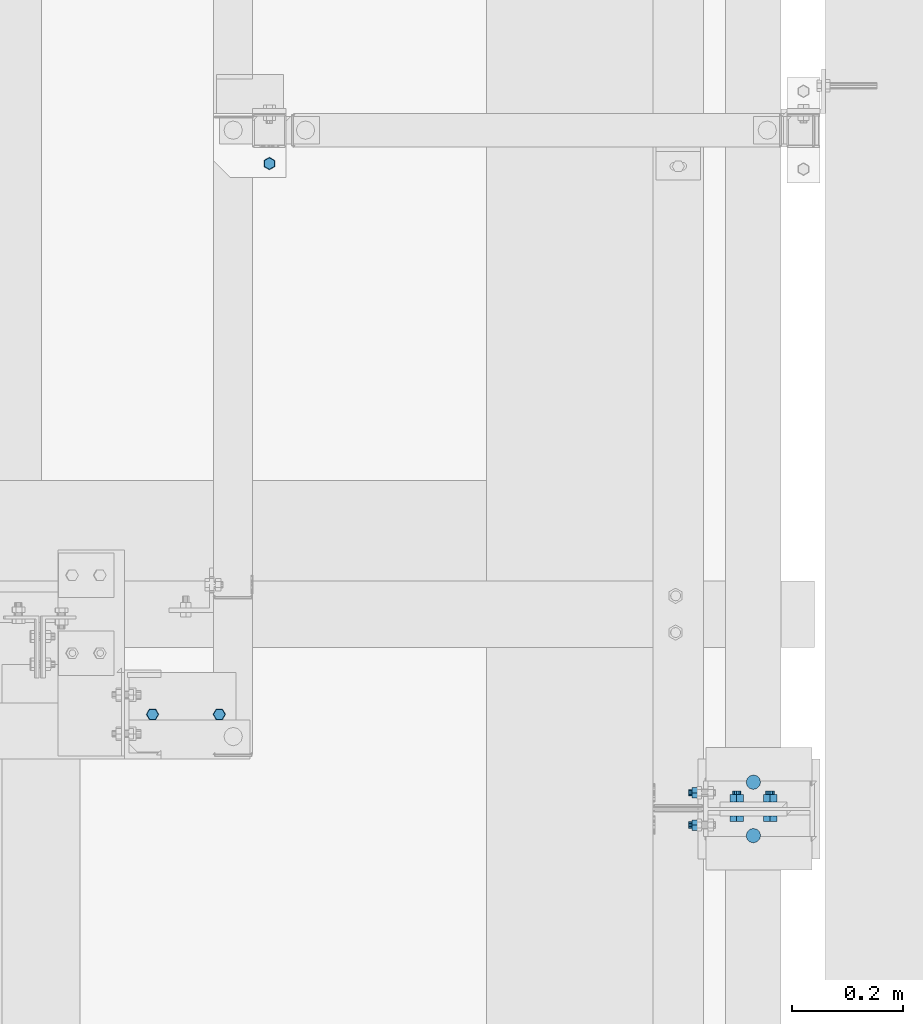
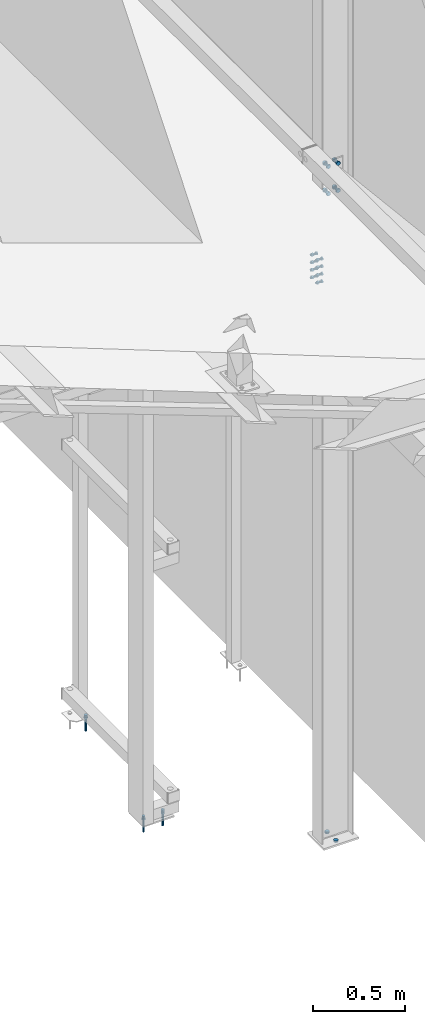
# One storey, part 394 of 3134: 5 mechanical fasteners, 3 elements without a shape of their own.
"""IFC2X3 building model written with IfcOpenShell, lengths in millimetres."""

from ifc_helpers import new_model, si_unit, frame, origin_with_axes, place, context, subcontext, project, spatial, faceted_brep, source, transform, mapped, material, type_object, element, aggregate, save


model = new_model("IFC2X3")

# Units and contexts
model_context = context("Model", 3, precision=1e-05, world=origin_with_axes())
body_context = subcontext(model_context, "Body", "Model", "MODEL_VIEW")
ifc_project = project(units=[si_unit("LENGTHUNIT", "METRE", prefix="MILLI"), si_unit("AREAUNIT", "SQUARE_METRE"), si_unit("VOLUMEUNIT", "CUBIC_METRE"), si_unit("MASSUNIT", "GRAM", prefix="KILO"), si_unit("TIMEUNIT", "SECOND"), si_unit("PLANEANGLEUNIT", "RADIAN"), si_unit("SOLIDANGLEUNIT", "STERADIAN"), si_unit("THERMODYNAMICTEMPERATUREUNIT", "DEGREE_CELSIUS"), si_unit("LUMINOUSINTENSITYUNIT", "LUMEN")], contexts=[model_context])

# Site, building, storey
site_placement = place(None, origin_with_axes())
site = spatial("IfcSite", under=ifc_project, at=site_placement, CompositionType="ELEMENT")
building_placement = place(site_placement, origin_with_axes())
building = spatial("IfcBuilding", under=site, at=building_placement, Name="Undefined", CompositionType="ELEMENT")
storey_placement = place(building_placement, origin_with_axes())
storey = spatial("IfcBuildingStorey", under=building, at=storey_placement, Name="Undefined", CompositionType="ELEMENT", Elevation=0.0)

# Assembly, mechanical fastener
assembly_1_placement = place(storey_placement, origin_with_axes())
assembly_1 = element("IfcElementAssembly", 1, at=assembly_1_placement, inside=storey, AssemblyPlace="NOTDEFINED", PredefinedType="RIGID_FRAME")
ifc_material_1 = material(Name="HILTI-HSA")
mechanical_fastener_type = type_object("IfcMechanicalFastenerType", Name="Bolt assembly")
shared_shape_1 = source(origin_with_axes(), body_context, "Body", "Brep", [
    faceted_brep([(10.3923048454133, -13.92, 0.0), (5.19615242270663, -13.92, 9.0), (-5.19615242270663, -13.92, 9.0), (-10.3923048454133, -13.92, 1.27269028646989e-15), (-5.19615242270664, -13.92, -9.0), (5.19615242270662, -13.92, -9.0), (5.19615242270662, -6.0, -9.0), (-5.19615242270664, -6.0, -9.0), (-10.3923048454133, -6.0, 1.27269028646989e-15), (-5.19615242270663, -6.0, 9.0), (5.19615242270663, -6.0, 9.0), (10.3923048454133, -6.0, 0.0), (6.0, -6.0, 0.0), (5.19615242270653, -6.0, 3.00000000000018), (2.99999999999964, -6.0, 5.19615242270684), (-6.21801588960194e-13, -6.0, 6.0), (-3.00000000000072, -6.0, 5.19615242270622), (-5.19615242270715, -6.0, 2.9999999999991), (-6.0, -6.0, -1.24360317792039e-12), (-5.19615242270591, -6.0, -3.00000000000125), (-2.99999999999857, -6.0, -5.19615242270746), (1.85874342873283e-12, -6.0, -6.0), (3.00000000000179, -6.0, -5.1961524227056), (5.19615242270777, -6.0, -2.99999999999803), (5.19615242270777, 94.0, -2.99999999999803), (3.00000000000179, 94.0, -5.1961524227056), (1.85874342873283e-12, 94.0, -6.0), (-2.99999999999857, 94.0, -5.19615242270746), (-5.19615242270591, 94.0, -3.00000000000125), (-6.0, 94.0, -1.24360317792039e-12), (-5.19615242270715, 94.0, 2.9999999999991), (-3.00000000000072, 94.0, 5.19615242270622), (-6.21801588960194e-13, 94.0, 6.0), (2.99999999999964, 94.0, 5.19615242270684), (5.19615242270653, 94.0, 3.00000000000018), (6.0, 94.0, 0.0), (11.5008173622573, 0.0, 0.0), (5.75040868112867, 0.0, 9.96), (-5.75040868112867, 0.0, 9.96), (-11.5008173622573, 0.0, 1.40844391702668e-15), (-5.75040868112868, 0.0, -9.96), (5.75040868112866, 0.0, -9.96), (5.75040868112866, 7.92, -9.96), (-5.75040868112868, 7.92, -9.96), (-11.5008173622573, 7.92, 1.40844391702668e-15), (-5.75040868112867, 7.92, 9.96), (5.75040868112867, 7.92, 9.96), (11.5008173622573, 7.92, 0.0)], [[[0, 1, 2, 3, 4, 5]], [[6, 7, 8, 9, 10, 11]], [[0, 11, 10, 1]], [[1, 10, 9, 2]], [[2, 9, 8, 3]], [[3, 8, 7, 4]], [[4, 7, 6, 5]], [[5, 6, 11, 0]], [[12, 13, 14, 15, 16, 17, 18, 19, 20, 21, 22, 23]], [[24, 25, 26, 27, 28, 29, 30, 31, 32, 33, 34, 35]], [[12, 35, 34, 13]], [[13, 34, 33, 14]], [[14, 33, 32, 15]], [[15, 32, 31, 16]], [[16, 31, 30, 17]], [[17, 30, 29, 18]], [[18, 29, 28, 19]], [[19, 28, 27, 20]], [[20, 27, 26, 21]], [[21, 26, 25, 22]], [[22, 25, 24, 23]], [[23, 24, 35, 12]], [[36, 37, 38, 39, 40, 41]], [[42, 43, 44, 45, 46, 47]], [[36, 47, 46, 37]], [[37, 46, 45, 38]], [[38, 45, 44, 39]], [[39, 44, 43, 40]], [[40, 43, 42, 41]], [[41, 42, 47, 36]]]),
    faceted_brep([(7.0, -6.0, 0.0), (6.06217782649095, -6.0, 3.50000000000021), (3.49999999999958, -6.0, 6.06217782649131), (-7.25435187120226e-13, -6.0, 7.0), (-3.50000000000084, -6.0, 6.06217782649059), (-6.06217782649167, -6.0, 3.49999999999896), (-7.0, -6.0, -1.45087037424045e-12), (-6.06217782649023, -6.0, -3.50000000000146), (-3.49999999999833, -6.0, -6.06217782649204), (2.1685340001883e-12, -6.0, -7.0), (3.50000000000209, -6.0, -6.06217782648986), (6.0621778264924, -6.0, -3.4999999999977), (6.0621778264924, 0.0999999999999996, -3.4999999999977), (3.50000000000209, 0.0999999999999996, -6.06217782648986), (2.1685340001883e-12, 0.0999999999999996, -7.0), (-3.49999999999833, 0.0999999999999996, -6.06217782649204), (-6.06217782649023, 0.0999999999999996, -3.50000000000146), (-7.0, 0.0999999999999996, -1.45087037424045e-12), (-6.06217782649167, 0.0999999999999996, 3.49999999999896), (-3.50000000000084, 0.0999999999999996, 6.06217782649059), (-7.25435187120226e-13, 0.0999999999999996, 7.0), (3.49999999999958, 0.0999999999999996, 6.06217782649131), (6.06217782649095, 0.0999999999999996, 3.50000000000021), (7.0, 0.0999999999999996, 0.0)], [[[0, 1, 2, 3, 4, 5, 6, 7, 8, 9, 10, 11]], [[12, 13, 14, 15, 16, 17, 18, 19, 20, 21, 22, 23]], [[0, 23, 22, 1]], [[1, 22, 21, 2]], [[2, 21, 20, 3]], [[3, 20, 19, 4]], [[4, 19, 18, 5]], [[5, 18, 17, 6]], [[6, 17, 16, 7]], [[7, 16, 15, 8]], [[8, 15, 14, 9]], [[9, 14, 13, 10]], [[10, 13, 12, 11]], [[11, 12, 23, 0]]]),
])
mechanical_fastener_1_placement = place(assembly_1_placement, frame((78355.0, 20610.0, 0.0), z_axis=(1.0, 0.0, 0.0), x_axis=(0.0, -1.0, 0.0)))
mechanical_fastener_1 = element("IfcMechanicalFastener", 2, at=mechanical_fastener_1_placement, type_object=mechanical_fastener_type, material=ifc_material_1, Name="Bolt assembly", NominalDiameter=12.0, NominalLength=100.0, context=body_context, shape_type="MappedRepresentation", body=[
    mapped(shared_shape_1, transform((0.0, 0.0, 0.0))),
])
aggregate(assembly_1, [mechanical_fastener_1])

assembly_2_placement = place(storey_placement, origin_with_axes())
assembly_2 = element("IfcElementAssembly", 3, at=assembly_2_placement, inside=storey, Name="UPN160", AssemblyPlace="NOTDEFINED", PredefinedType="RIGID_FRAME")
shared_shape_2 = source(origin_with_axes(), body_context, "Body", "Brep", [
    faceted_brep([(10.3923048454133, -17.92, 0.0), (5.19615242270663, -17.92, 9.0), (-5.19615242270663, -17.92, 9.0), (-10.3923048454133, -17.92, 1.27269028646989e-15), (-5.19615242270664, -17.92, -9.0), (5.19615242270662, -17.92, -9.0), (5.19615242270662, -10.0, -9.0), (-5.19615242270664, -10.0, -9.0), (-10.3923048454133, -10.0, 1.27269028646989e-15), (-5.19615242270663, -10.0, 9.0), (5.19615242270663, -10.0, 9.0), (10.3923048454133, -10.0, 0.0), (6.0, -10.0, 0.0), (5.19615242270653, -10.0, 3.00000000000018), (2.99999999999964, -10.0, 5.19615242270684), (-6.21801588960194e-13, -10.0, 6.0), (-3.00000000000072, -10.0, 5.19615242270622), (-5.19615242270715, -10.0, 2.9999999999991), (-6.0, -10.0, -1.24360317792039e-12), (-5.19615242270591, -10.0, -3.00000000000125), (-2.99999999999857, -10.0, -5.19615242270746), (1.85874342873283e-12, -10.0, -6.0), (3.00000000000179, -10.0, -5.1961524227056), (5.19615242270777, -10.0, -2.99999999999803), (5.19615242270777, 90.0, -2.99999999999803), (3.00000000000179, 90.0, -5.1961524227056), (1.85874342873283e-12, 90.0, -6.0), (-2.99999999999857, 90.0, -5.19615242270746), (-5.19615242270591, 90.0, -3.00000000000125), (-6.0, 90.0, -1.24360317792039e-12), (-5.19615242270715, 90.0, 2.9999999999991), (-3.00000000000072, 90.0, 5.19615242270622), (-6.21801588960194e-13, 90.0, 6.0), (2.99999999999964, 90.0, 5.19615242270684), (5.19615242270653, 90.0, 3.00000000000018), (6.0, 90.0, 0.0), (11.5008173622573, 0.0, 0.0), (5.75040868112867, 0.0, 9.96), (-5.75040868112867, 0.0, 9.96), (-11.5008173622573, 0.0, 1.40844391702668e-15), (-5.75040868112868, 0.0, -9.96), (5.75040868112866, 0.0, -9.96), (5.75040868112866, 7.92, -9.96), (-5.75040868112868, 7.92, -9.96), (-11.5008173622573, 7.92, 1.40844391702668e-15), (-5.75040868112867, 7.92, 9.96), (5.75040868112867, 7.92, 9.96), (11.5008173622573, 7.92, 0.0)], [[[0, 1, 2, 3, 4, 5]], [[6, 7, 8, 9, 10, 11]], [[0, 11, 10, 1]], [[1, 10, 9, 2]], [[2, 9, 8, 3]], [[3, 8, 7, 4]], [[4, 7, 6, 5]], [[5, 6, 11, 0]], [[12, 13, 14, 15, 16, 17, 18, 19, 20, 21, 22, 23]], [[24, 25, 26, 27, 28, 29, 30, 31, 32, 33, 34, 35]], [[12, 35, 34, 13]], [[13, 34, 33, 14]], [[14, 33, 32, 15]], [[15, 32, 31, 16]], [[16, 31, 30, 17]], [[17, 30, 29, 18]], [[18, 29, 28, 19]], [[19, 28, 27, 20]], [[20, 27, 26, 21]], [[21, 26, 25, 22]], [[22, 25, 24, 23]], [[23, 24, 35, 12]], [[36, 37, 38, 39, 40, 41]], [[42, 43, 44, 45, 46, 47]], [[36, 47, 46, 37]], [[37, 46, 45, 38]], [[38, 45, 44, 39]], [[39, 44, 43, 40]], [[40, 43, 42, 41]], [[41, 42, 47, 36]]]),
    faceted_brep([(7.0, -10.0, 0.0), (6.06217782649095, -10.0, 3.50000000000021), (3.49999999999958, -10.0, 6.06217782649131), (-7.25435187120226e-13, -10.0, 7.0), (-3.50000000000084, -10.0, 6.06217782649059), (-6.06217782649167, -10.0, 3.49999999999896), (-7.0, -10.0, -1.45087037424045e-12), (-6.06217782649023, -10.0, -3.50000000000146), (-3.49999999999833, -10.0, -6.06217782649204), (2.1685340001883e-12, -10.0, -7.0), (3.50000000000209, -10.0, -6.06217782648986), (6.0621778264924, -10.0, -3.4999999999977), (6.0621778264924, 0.0999999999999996, -3.4999999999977), (3.50000000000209, 0.0999999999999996, -6.06217782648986), (2.1685340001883e-12, 0.0999999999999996, -7.0), (-3.49999999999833, 0.0999999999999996, -6.06217782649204), (-6.06217782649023, 0.0999999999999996, -3.50000000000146), (-7.0, 0.0999999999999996, -1.45087037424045e-12), (-6.06217782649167, 0.0999999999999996, 3.49999999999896), (-3.50000000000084, 0.0999999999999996, 6.06217782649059), (-7.25435187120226e-13, 0.0999999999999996, 7.0), (3.49999999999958, 0.0999999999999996, 6.06217782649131), (6.06217782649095, 0.0999999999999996, 3.50000000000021), (7.0, 0.0999999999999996, 0.0)], [[[0, 1, 2, 3, 4, 5, 6, 7, 8, 9, 10, 11]], [[12, 13, 14, 15, 16, 17, 18, 19, 20, 21, 22, 23]], [[0, 23, 22, 1]], [[1, 22, 21, 2]], [[2, 21, 20, 3]], [[3, 20, 19, 4]], [[4, 19, 18, 5]], [[5, 18, 17, 6]], [[6, 17, 16, 7]], [[7, 16, 15, 8]], [[8, 15, 14, 9]], [[9, 14, 13, 10]], [[10, 13, 12, 11]], [[11, 12, 23, 0]]]),
])
mechanical_fastener_2_placement = place(assembly_2_placement, frame((78145.0, 19620.0, 0.0), z_axis=(0.0, 1.0, 0.0), x_axis=(1.0, 0.0, 0.0)))
mechanical_fastener_2 = element("IfcMechanicalFastener", 4, at=mechanical_fastener_2_placement, type_object=mechanical_fastener_type, material=ifc_material_1, Name="Bolt assembly", NominalDiameter=12.0, NominalLength=100.0, context=body_context, shape_type="MappedRepresentation", body=[
    mapped(shared_shape_2, transform((0.0, 0.0, 0.0))),
    mapped(shared_shape_2, transform((120.0, 0.0, 0.0))),
])
aggregate(assembly_2, [mechanical_fastener_2])

# Assembly, mechanical fasteners
assembly_3_placement = place(storey_placement, origin_with_axes())
assembly_3 = element("IfcElementAssembly", 5, at=assembly_3_placement, inside=storey, Name="IPE200", AssemblyPlace="NOTDEFINED", PredefinedType="RIGID_FRAME")
ifc_material_2 = material(Name="8.8")
shared_shape_3 = source(origin_with_axes(), body_context, "Body", "Brep", [
    faceted_brep([(13.0, 0.0, 0.0), (11.2583302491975, 0.0, 6.50000000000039), (6.49999999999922, 0.0, 11.2583302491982), (-1.34723677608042e-12, 0.0, 13.0), (-6.50000000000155, 0.0, 11.2583302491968), (-11.2583302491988, 0.0, 6.49999999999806), (-13.0, 0.0, -2.69447355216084e-12), (-11.2583302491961, 0.0, -6.50000000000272), (-6.4999999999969, 0.0, -11.2583302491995), (4.02727742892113e-12, 0.0, -13.0), (6.50000000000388, 0.0, -11.2583302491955), (11.2583302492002, 0.0, -6.49999999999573), (11.2583302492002, 12.1, -6.49999999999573), (6.50000000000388, 12.1, -11.2583302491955), (4.02727742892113e-12, 12.1, -13.0), (-6.4999999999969, 12.1, -11.2583302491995), (-11.2583302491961, 12.1, -6.50000000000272), (-13.0, 12.1, -2.69447355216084e-12), (-11.2583302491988, 12.1, 6.49999999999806), (-6.50000000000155, 12.1, 11.2583302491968), (-1.34723677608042e-12, 12.1, 13.0), (6.49999999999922, 12.1, 11.2583302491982), (11.2583302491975, 12.1, 6.50000000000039), (13.0, 12.1, 0.0)], [[[0, 1, 2, 3, 4, 5, 6, 7, 8, 9, 10, 11]], [[12, 13, 14, 15, 16, 17, 18, 19, 20, 21, 22, 23]], [[0, 23, 22, 1]], [[1, 22, 21, 2]], [[2, 21, 20, 3]], [[3, 20, 19, 4]], [[4, 19, 18, 5]], [[5, 18, 17, 6]], [[6, 17, 16, 7]], [[7, 16, 15, 8]], [[8, 15, 14, 9]], [[9, 14, 13, 10]], [[10, 13, 12, 11]], [[11, 12, 23, 0]]]),
])
mechanical_fastener_3_placement = place(assembly_3_placement, frame((79225.0, 19450.0, -400.0), z_axis=(0.0, -1.0, 0.0), x_axis=(1.0, 0.0, 0.0)))
mechanical_fastener_3 = element("IfcMechanicalFastener", 6, at=mechanical_fastener_3_placement, type_object=mechanical_fastener_type, material=ifc_material_2, Name="Bolt assembly", NominalDiameter=24.0, NominalLength=12.0, context=body_context, shape_type="MappedRepresentation", body=[
    mapped(shared_shape_3, transform((0.0, 0.0, -48.0))),
    mapped(shared_shape_3, transform((0.0, 0.0, 48.0))),
])
shared_shape_4 = source(origin_with_axes(), body_context, "Body", "Brep", [
    faceted_brep([(13.856406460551, -20.0, 0.0), (6.92820323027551, -20.0, 12.0), (-6.92820323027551, -20.0, 12.0), (-13.856406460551, -20.0, 1.69692038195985e-15), (-6.92820323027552, -20.0, -12.0), (6.9282032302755, -20.0, -12.0), (6.9282032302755, -10.0, -12.0), (-6.92820323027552, -10.0, -12.0), (-13.856406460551, -10.0, 1.69692038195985e-15), (-6.92820323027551, -10.0, 12.0), (6.92820323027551, -10.0, 12.0), (13.856406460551, -10.0, 0.0), (8.0, -10.0, 0.0), (6.92820323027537, -10.0, 4.00000000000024), (3.99999999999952, -10.0, 6.92820323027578), (-8.29068785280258e-13, -10.0, 8.0), (-4.00000000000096, -10.0, 6.92820323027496), (-6.9282032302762, -10.0, 3.99999999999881), (-8.0, -10.0, -1.65813757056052e-12), (-6.92820323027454, -10.0, -4.00000000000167), (-3.99999999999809, -10.0, -6.92820323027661), (2.47832457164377e-12, -10.0, -8.0), (4.00000000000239, -10.0, -6.92820323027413), (6.92820323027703, -10.0, -3.99999999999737), (6.92820323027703, 35.0000000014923, -3.99999999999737), (4.00000000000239, 35.0000000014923, -6.92820323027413), (2.47832457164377e-12, 35.0000000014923, -8.0), (-3.99999999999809, 35.0000000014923, -6.92820323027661), (-6.92820323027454, 35.0000000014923, -4.00000000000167), (-8.0, 35.0000000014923, -1.65813757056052e-12), (-6.9282032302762, 35.0000000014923, 3.99999999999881), (-4.00000000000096, 35.0000000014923, 6.92820323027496), (-8.29068785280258e-13, 35.0000000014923, 8.0), (3.99999999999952, 35.0000000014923, 6.92820323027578), (6.92820323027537, 35.0000000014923, 4.00000000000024), (8.0, 35.0000000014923, 0.0), (13.856406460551, 15.5999999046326, 0.0), (6.92820323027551, 15.5999999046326, 12.0), (-6.92820323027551, 15.5999999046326, 12.0), (-13.856406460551, 15.5999999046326, 1.69692038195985e-15), (-6.92820323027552, 15.5999999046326, -12.0), (6.9282032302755, 15.5999999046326, -12.0), (6.9282032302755, 28.5999999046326, -12.0), (-6.92820323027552, 28.5999999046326, -12.0), (-13.856406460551, 28.5999999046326, 1.69692038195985e-15), (-6.92820323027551, 28.5999999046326, 12.0), (6.92820323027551, 28.5999999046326, 12.0), (13.856406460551, 28.5999999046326, 0.0)], [[[0, 1, 2, 3, 4, 5]], [[6, 7, 8, 9, 10, 11]], [[0, 11, 10, 1]], [[1, 10, 9, 2]], [[2, 9, 8, 3]], [[3, 8, 7, 4]], [[4, 7, 6, 5]], [[5, 6, 11, 0]], [[12, 13, 14, 15, 16, 17, 18, 19, 20, 21, 22, 23]], [[24, 25, 26, 27, 28, 29, 30, 31, 32, 33, 34, 35]], [[12, 35, 34, 13]], [[13, 34, 33, 14]], [[14, 33, 32, 15]], [[15, 32, 31, 16]], [[16, 31, 30, 17]], [[17, 30, 29, 18]], [[18, 29, 28, 19]], [[19, 28, 27, 20]], [[20, 27, 26, 21]], [[21, 26, 25, 22]], [[22, 25, 24, 23]], [[23, 24, 35, 12]], [[36, 37, 38, 39, 40, 41]], [[42, 43, 44, 45, 46, 47]], [[36, 47, 46, 37]], [[37, 46, 45, 38]], [[38, 45, 44, 39]], [[39, 44, 43, 40]], [[40, 43, 42, 41]], [[41, 42, 47, 36]]]),
    faceted_brep([(9.0, -9.89999997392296, 0.0), (7.79422863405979, -9.89999997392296, 4.50000000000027), (4.49999999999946, -9.89999997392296, 7.79422863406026), (-9.3270238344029e-13, -9.89999997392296, 9.0), (-4.50000000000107, -9.89999997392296, 7.79422863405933), (-7.79422863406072, -9.89999997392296, 4.49999999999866), (-9.0, -9.89999997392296, -1.86540476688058e-12), (-7.79422863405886, -9.89999997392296, -4.50000000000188), (-4.49999999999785, -9.89999997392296, -7.79422863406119), (2.78811514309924e-12, -9.89999997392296, -9.0), (4.50000000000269, -9.89999997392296, -7.7942286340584), (7.79422863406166, -9.89999997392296, -4.49999999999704), (7.79422863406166, 0.100000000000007, -4.49999999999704), (4.50000000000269, 0.100000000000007, -7.7942286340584), (2.78811514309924e-12, 0.100000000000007, -9.0), (-4.49999999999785, 0.100000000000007, -7.79422863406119), (-7.79422863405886, 0.100000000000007, -4.50000000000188), (-9.0, 0.100000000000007, -1.86540476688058e-12), (-7.79422863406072, 0.100000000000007, 4.49999999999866), (-4.50000000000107, 0.100000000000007, 7.79422863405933), (-9.3270238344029e-13, 0.100000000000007, 9.0), (4.49999999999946, 0.100000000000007, 7.79422863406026), (7.79422863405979, 0.100000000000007, 4.50000000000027), (9.0, 0.100000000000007, 0.0), (9.0, -3.46568413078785e-07, 0.0), (7.79422863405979, -3.46568413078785e-07, 4.50000000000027), (4.49999999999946, -3.46568413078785e-07, 7.79422863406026), (-9.3270238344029e-13, -3.46568413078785e-07, 9.0), (-4.50000000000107, -3.46568413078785e-07, 7.79422863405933), (-7.79422863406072, -3.46568413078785e-07, 4.49999999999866), (-9.0, -3.46568413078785e-07, -1.86540476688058e-12), (-7.79422863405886, -3.46568413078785e-07, -4.50000000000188), (-4.49999999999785, -3.46568413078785e-07, -7.79422863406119), (2.78811514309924e-12, -3.46568413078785e-07, -9.0), (4.50000000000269, -3.46568413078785e-07, -7.7942286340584), (7.79422863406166, -3.46568413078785e-07, -4.49999999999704), (7.79422863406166, 5.59999990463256, -4.49999999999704), (4.50000000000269, 5.59999990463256, -7.7942286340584), (2.78811514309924e-12, 5.59999990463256, -9.0), (-4.49999999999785, 5.59999990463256, -7.79422863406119), (-7.79422863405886, 5.59999990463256, -4.50000000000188), (-9.0, 5.59999990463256, -1.86540476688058e-12), (-7.79422863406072, 5.59999990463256, 4.49999999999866), (-4.50000000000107, 5.59999990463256, 7.79422863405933), (-9.3270238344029e-13, 5.59999990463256, 9.0), (4.49999999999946, 5.59999990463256, 7.79422863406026), (7.79422863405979, 5.59999990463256, 4.50000000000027), (9.0, 5.59999990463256, 0.0), (9.0, 5.49999990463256, 0.0), (7.79422863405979, 5.49999990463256, 4.50000000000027), (4.49999999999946, 5.49999990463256, 7.79422863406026), (-9.3270238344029e-13, 5.49999990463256, 9.0), (-4.50000000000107, 5.49999990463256, 7.79422863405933), (-7.79422863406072, 5.49999990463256, 4.49999999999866), (-9.0, 5.49999990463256, -1.86540476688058e-12), (-7.79422863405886, 5.49999990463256, -4.50000000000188), (-4.49999999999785, 5.49999990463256, -7.79422863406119), (2.78811514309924e-12, 5.49999990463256, -9.0), (4.50000000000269, 5.49999990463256, -7.7942286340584), (7.79422863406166, 5.49999990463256, -4.49999999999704), (7.79422863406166, 15.5999999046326, -4.49999999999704), (4.50000000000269, 15.5999999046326, -7.7942286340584), (2.78811514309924e-12, 15.5999999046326, -9.0), (-4.49999999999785, 15.5999999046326, -7.79422863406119), (-7.79422863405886, 15.5999999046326, -4.50000000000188), (-9.0, 15.5999999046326, -1.86540476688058e-12), (-7.79422863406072, 15.5999999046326, 4.49999999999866), (-4.50000000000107, 15.5999999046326, 7.79422863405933), (-9.3270238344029e-13, 15.5999999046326, 9.0), (4.49999999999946, 15.5999999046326, 7.79422863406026), (7.79422863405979, 15.5999999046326, 4.50000000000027), (9.0, 15.5999999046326, 0.0)], [[[0, 1, 2, 3, 4, 5, 6, 7, 8, 9, 10, 11]], [[12, 13, 14, 15, 16, 17, 18, 19, 20, 21, 22, 23]], [[0, 23, 22, 1]], [[1, 22, 21, 2]], [[2, 21, 20, 3]], [[3, 20, 19, 4]], [[4, 19, 18, 5]], [[5, 18, 17, 6]], [[6, 17, 16, 7]], [[7, 16, 15, 8]], [[8, 15, 14, 9]], [[9, 14, 13, 10]], [[10, 13, 12, 11]], [[11, 12, 23, 0]], [[24, 25, 26, 27, 28, 29, 30, 31, 32, 33, 34, 35]], [[36, 37, 38, 39, 40, 41, 42, 43, 44, 45, 46, 47]], [[24, 47, 46, 25]], [[25, 46, 45, 26]], [[26, 45, 44, 27]], [[27, 44, 43, 28]], [[28, 43, 42, 29]], [[29, 42, 41, 30]], [[30, 41, 40, 31]], [[31, 40, 39, 32]], [[32, 39, 38, 33]], [[33, 38, 37, 34]], [[34, 37, 36, 35]], [[35, 36, 47, 24]], [[48, 49, 50, 51, 52, 53, 54, 55, 56, 57, 58, 59]], [[60, 61, 62, 63, 64, 65, 66, 67, 68, 69, 70, 71]], [[48, 71, 70, 49]], [[49, 70, 69, 50]], [[50, 69, 68, 51]], [[51, 68, 67, 52]], [[52, 67, 66, 53]], [[53, 66, 65, 54]], [[54, 65, 64, 55]], [[55, 64, 63, 56]], [[56, 63, 62, 57]], [[57, 62, 61, 58]], [[58, 61, 60, 59]], [[59, 60, 71, 48]]]),
])
mechanical_fastener_4_placement = place(assembly_3_placement, frame((79225.0, 19447.2000000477, 4064.781243), z_axis=(1.0, 0.0, 0.0), x_axis=(0.0, 0.0, -1.0)))
mechanical_fastener_4 = element("IfcMechanicalFastener", 7, at=mechanical_fastener_4_placement, type_object=mechanical_fastener_type, material=ifc_material_2, Name="Bolt assembly", NominalDiameter=16.0, NominalLength=45.0, context=body_context, shape_type="MappedRepresentation", body=[
    mapped(shared_shape_4, transform((0.0, 4.54747350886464e-13, -30.0000000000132))),
    mapped(shared_shape_4, transform((180.0, 0.0, -30.0))),
    mapped(shared_shape_4, transform((0.0, 4.54747350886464e-13, 30.0000000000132))),
    mapped(shared_shape_4, transform((180.0, 0.0, 30.0))),
])
shared_shape_5 = source(origin_with_axes(), body_context, "Body", "Brep", [
    faceted_brep([(10.9696551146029, -16.5, 0.0), (5.48482755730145, -16.5, 9.5), (-5.48482755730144, -16.5, 9.5), (-10.9696551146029, -16.5, 1.34339530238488e-15), (-5.48482755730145, -16.5, -9.5), (5.48482755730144, -16.5, -9.50000000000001), (5.48482755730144, -8.5, -9.50000000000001), (-5.48482755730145, -8.5, -9.5), (-10.9696551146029, -8.5, 1.34339530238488e-15), (-5.48482755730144, -8.5, 9.5), (5.48482755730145, -8.5, 9.5), (10.9696551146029, -8.5, 0.0), (6.0, -8.5, 0.0), (5.19615242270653, -8.5, 3.00000000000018), (2.99999999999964, -8.5, 5.19615242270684), (-6.21801588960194e-13, -8.5, 6.0), (-3.00000000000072, -8.5, 5.19615242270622), (-5.19615242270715, -8.5, 2.9999999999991), (-6.0, -8.5, -1.24360317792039e-12), (-5.19615242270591, -8.5, -3.00000000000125), (-2.99999999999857, -8.5, -5.19615242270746), (1.85874342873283e-12, -8.5, -6.0), (3.00000000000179, -8.5, -5.1961524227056), (5.19615242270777, -8.5, -2.99999999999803), (5.19615242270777, 26.5, -2.99999999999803), (3.00000000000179, 26.5, -5.1961524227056), (1.85874342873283e-12, 26.5, -6.0), (-2.99999999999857, 26.5, -5.19615242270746), (-5.19615242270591, 26.5, -3.00000000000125), (-6.0, 26.5, -1.24360317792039e-12), (-5.19615242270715, 26.5, 2.9999999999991), (-3.00000000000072, 26.5, 5.19615242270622), (-6.21801588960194e-13, 26.5, 6.0), (2.99999999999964, 26.5, 5.19615242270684), (5.19615242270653, 26.5, 3.00000000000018), (6.0, 26.5, 0.0), (10.9696551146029, 10.0, 0.0), (5.48482755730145, 10.0, 9.5), (-5.48482755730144, 10.0, 9.5), (-10.9696551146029, 10.0, 1.34339530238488e-15), (-5.48482755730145, 10.0, -9.5), (5.48482755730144, 10.0, -9.50000000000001), (5.48482755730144, 20.0, -9.50000000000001), (-5.48482755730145, 20.0, -9.5), (-10.9696551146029, 20.0, 1.34339530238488e-15), (-5.48482755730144, 20.0, 9.5), (5.48482755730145, 20.0, 9.5), (10.9696551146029, 20.0, 0.0)], [[[0, 1, 2, 3, 4, 5]], [[6, 7, 8, 9, 10, 11]], [[0, 11, 10, 1]], [[1, 10, 9, 2]], [[2, 9, 8, 3]], [[3, 8, 7, 4]], [[4, 7, 6, 5]], [[5, 6, 11, 0]], [[12, 13, 14, 15, 16, 17, 18, 19, 20, 21, 22, 23]], [[24, 25, 26, 27, 28, 29, 30, 31, 32, 33, 34, 35]], [[12, 35, 34, 13]], [[13, 34, 33, 14]], [[14, 33, 32, 15]], [[15, 32, 31, 16]], [[16, 31, 30, 17]], [[17, 30, 29, 18]], [[18, 29, 28, 19]], [[19, 28, 27, 20]], [[20, 27, 26, 21]], [[21, 26, 25, 22]], [[22, 25, 24, 23]], [[23, 24, 35, 12]], [[36, 37, 38, 39, 40, 41]], [[42, 43, 44, 45, 46, 47]], [[36, 47, 46, 37]], [[37, 46, 45, 38]], [[38, 45, 44, 39]], [[39, 44, 43, 40]], [[40, 43, 42, 41]], [[41, 42, 47, 36]]]),
    faceted_brep([(7.0, -0.1, 0.0), (6.06217782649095, -0.1, 3.50000000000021), (3.49999999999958, -0.1, 6.06217782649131), (-7.25435187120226e-13, -0.1, 7.0), (-3.50000000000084, -0.1, 6.06217782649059), (-6.06217782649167, -0.1, 3.49999999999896), (-7.0, -0.1, -1.45087037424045e-12), (-6.06217782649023, -0.1, -3.50000000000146), (-3.49999999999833, -0.1, -6.06217782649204), (2.1685340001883e-12, -0.1, -7.0), (3.50000000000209, -0.1, -6.06217782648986), (6.0621778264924, -0.1, -3.4999999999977), (6.0621778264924, 10.0, -3.4999999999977), (3.50000000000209, 10.0, -6.06217782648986), (2.1685340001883e-12, 10.0, -7.0), (-3.49999999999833, 10.0, -6.06217782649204), (-6.06217782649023, 10.0, -3.50000000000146), (-7.0, 10.0, -1.45087037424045e-12), (-6.06217782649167, 10.0, 3.49999999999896), (-3.50000000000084, 10.0, 6.06217782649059), (-7.25435187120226e-13, 10.0, 7.0), (3.49999999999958, 10.0, 6.06217782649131), (6.06217782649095, 10.0, 3.50000000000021), (7.0, 10.0, 0.0), (7.0, -8.4, 0.0), (6.06217782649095, -8.4, 3.50000000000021), (3.49999999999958, -8.4, 6.06217782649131), (-7.25435187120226e-13, -8.4, 7.0), (-3.50000000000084, -8.4, 6.06217782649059), (-6.06217782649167, -8.4, 3.49999999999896), (-7.0, -8.4, -1.45087037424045e-12), (-6.06217782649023, -8.4, -3.50000000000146), (-3.49999999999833, -8.4, -6.06217782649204), (2.1685340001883e-12, -8.4, -7.0), (3.50000000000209, -8.4, -6.06217782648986), (6.0621778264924, -8.4, -3.4999999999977), (6.0621778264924, 0.0999999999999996, -3.4999999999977), (3.50000000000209, 0.0999999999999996, -6.06217782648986), (2.1685340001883e-12, 0.0999999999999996, -7.0), (-3.49999999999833, 0.0999999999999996, -6.06217782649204), (-6.06217782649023, 0.0999999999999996, -3.50000000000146), (-7.0, 0.0999999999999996, -1.45087037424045e-12), (-6.06217782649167, 0.0999999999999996, 3.49999999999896), (-3.50000000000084, 0.0999999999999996, 6.06217782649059), (-7.25435187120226e-13, 0.0999999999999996, 7.0), (3.49999999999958, 0.0999999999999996, 6.06217782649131), (6.06217782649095, 0.0999999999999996, 3.50000000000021), (7.0, 0.0999999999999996, 0.0)], [[[0, 1, 2, 3, 4, 5, 6, 7, 8, 9, 10, 11]], [[12, 13, 14, 15, 16, 17, 18, 19, 20, 21, 22, 23]], [[0, 23, 22, 1]], [[1, 22, 21, 2]], [[2, 21, 20, 3]], [[3, 20, 19, 4]], [[4, 19, 18, 5]], [[5, 18, 17, 6]], [[6, 17, 16, 7]], [[7, 16, 15, 8]], [[8, 15, 14, 9]], [[9, 14, 13, 10]], [[10, 13, 12, 11]], [[11, 12, 23, 0]], [[24, 25, 26, 27, 28, 29, 30, 31, 32, 33, 34, 35]], [[36, 37, 38, 39, 40, 41, 42, 43, 44, 45, 46, 47]], [[24, 47, 46, 25]], [[25, 46, 45, 26]], [[26, 45, 44, 27]], [[27, 44, 43, 28]], [[28, 43, 42, 29]], [[29, 42, 41, 30]], [[30, 41, 40, 31]], [[31, 40, 39, 32]], [[32, 39, 38, 33]], [[33, 38, 37, 34]], [[34, 37, 36, 35]], [[35, 36, 47, 24]]]),
])
mechanical_fastener_5_placement = place(assembly_3_placement, frame((79135.0, 19450.0, 3477.964809), z_axis=(0.0, 1.0, 0.0), x_axis=(0.0, 0.0, -1.0)))
mechanical_fastener_5 = element("IfcMechanicalFastener", 8, at=mechanical_fastener_5_placement, type_object=mechanical_fastener_type, material=ifc_material_2, Name="Bolt assembly", NominalDiameter=12.0, NominalLength=35.0, context=body_context, shape_type="MappedRepresentation", body=[
    mapped(shared_shape_5, transform((-2.63753463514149e-11, 0.0, -28.9999999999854))),
    mapped(shared_shape_5, transform((50.0, 0.0, -29.0))),
    mapped(shared_shape_5, transform((100.0, 0.0, -29.0))),
    mapped(shared_shape_5, transform((150.0, 0.0, -29.0))),
    mapped(shared_shape_5, transform((2.63753463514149e-11, 0.0, 28.9999999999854))),
    mapped(shared_shape_5, transform((50.0, 0.0, 29.0))),
    mapped(shared_shape_5, transform((100.0, 0.0, 29.0))),
    mapped(shared_shape_5, transform((150.0, 0.0, 29.0))),
])
aggregate(assembly_3, [mechanical_fastener_4, mechanical_fastener_5, mechanical_fastener_3])

save(model, "model.ifc")
